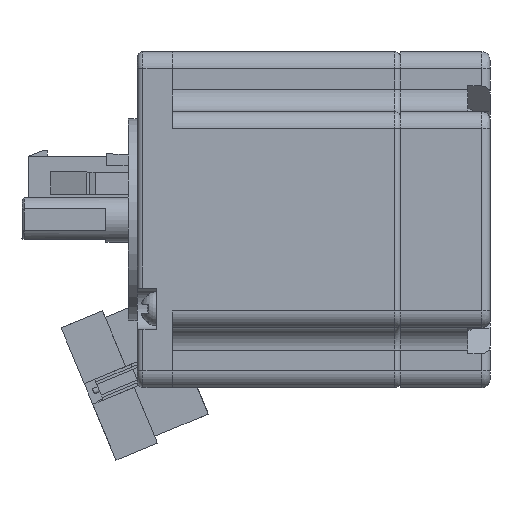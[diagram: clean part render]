
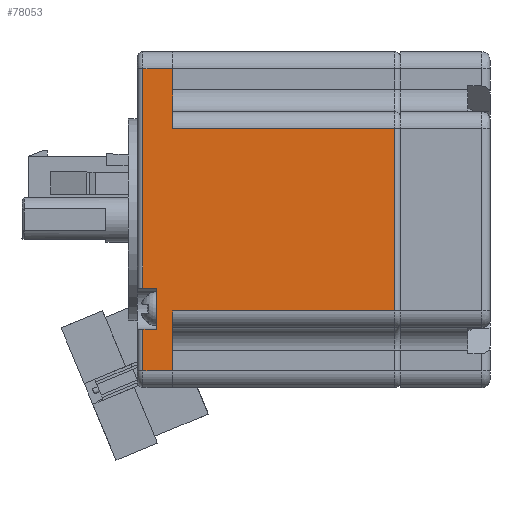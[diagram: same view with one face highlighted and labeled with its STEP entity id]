
A CAD part, front view. The second image highlights one B-rep face of the part: STEP entity #78053.
In plain terms, the highlighted planar face has unit normal (0, -1, 0).
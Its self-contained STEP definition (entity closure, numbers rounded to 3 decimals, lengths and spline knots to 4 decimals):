
#512=LINE('',#108121,#11326);
#514=LINE('',#108125,#11328);
#516=LINE('',#108129,#11330);
#517=LINE('',#108133,#11331);
#518=LINE('',#108135,#11332);
#521=LINE('',#108147,#11335);
#524=LINE('',#108157,#11338);
#566=LINE('',#108274,#11380);
#569=LINE('',#108282,#11383);
#575=LINE('',#108320,#11389);
#576=LINE('',#108323,#11390);
#577=LINE('',#108324,#11391);
#11326=VECTOR('',#87562,1.5433);
#11328=VECTOR('',#87566,0.0984);
#11330=VECTOR('',#87570,0.2913);
#11331=VECTOR('',#87575,0.0984);
#11332=VECTOR('',#87578,0.2913);
#11335=VECTOR('',#87587,0.4213);
#11338=VECTOR('',#87598,0.2087);
#11380=VECTOR('',#87720,0.2087);
#11383=VECTOR('',#87727,0.4213);
#11389=VECTOR('',#87769,1.563);
#11390=VECTOR('',#87772,1.563);
#11391=VECTOR('',#87773,1.2835);
#22233=PLANE('',#82347);
#26260=FACE_OUTER_BOUND('',#30327,.T.);
#30327=EDGE_LOOP('',(#55482,#55483,#55484,#55485,#55486,#55487,#55488,#55489,
#55490,#55491,#55492,#55493));
#35282=VERTEX_POINT('',#107950);
#35328=VERTEX_POINT('',#108115);
#35329=VERTEX_POINT('',#108119);
#35330=VERTEX_POINT('',#108123);
#35331=VERTEX_POINT('',#108127);
#35332=VERTEX_POINT('',#108131);
#35337=VERTEX_POINT('',#108144);
#35338=VERTEX_POINT('',#108146);
#35376=VERTEX_POINT('',#108273);
#35379=VERTEX_POINT('',#108281);
#35393=VERTEX_POINT('',#108318);
#35394=VERTEX_POINT('',#108322);
#43256=EDGE_CURVE('',#35328,#35329,#512,.T.);
#43258=EDGE_CURVE('',#35329,#35330,#514,.T.);
#43260=EDGE_CURVE('',#35330,#35331,#516,.T.);
#43262=EDGE_CURVE('',#35331,#35332,#517,.T.);
#43263=EDGE_CURVE('',#35332,#35282,#518,.T.);
#43268=EDGE_CURVE('',#35338,#35337,#521,.T.);
#43274=EDGE_CURVE('',#35282,#35338,#524,.T.);
#43332=EDGE_CURVE('',#35376,#35328,#566,.T.);
#43336=EDGE_CURVE('',#35379,#35376,#569,.T.);
#43353=EDGE_CURVE('',#35393,#35379,#575,.T.);
#43354=EDGE_CURVE('',#35394,#35337,#576,.T.);
#43355=EDGE_CURVE('',#35393,#35394,#577,.T.);
#55482=ORIENTED_EDGE('',*,*,#43263,.T.);
#55483=ORIENTED_EDGE('',*,*,#43274,.T.);
#55484=ORIENTED_EDGE('',*,*,#43268,.T.);
#55485=ORIENTED_EDGE('',*,*,#43354,.F.);
#55486=ORIENTED_EDGE('',*,*,#43355,.F.);
#55487=ORIENTED_EDGE('',*,*,#43353,.T.);
#55488=ORIENTED_EDGE('',*,*,#43336,.T.);
#55489=ORIENTED_EDGE('',*,*,#43332,.T.);
#55490=ORIENTED_EDGE('',*,*,#43256,.T.);
#55491=ORIENTED_EDGE('',*,*,#43258,.T.);
#55492=ORIENTED_EDGE('',*,*,#43260,.T.);
#55493=ORIENTED_EDGE('',*,*,#43262,.T.);
#78053=ADVANCED_FACE('',(#26260),#22233,.T.);
#82347=AXIS2_PLACEMENT_3D('',#108321,#87770,#87771);
#87562=DIRECTION('',(0.,0.,-1.));
#87566=DIRECTION('',(1.,0.,0.));
#87570=DIRECTION('',(0.,0.,-1.));
#87575=DIRECTION('',(-1.,0.,0.));
#87578=DIRECTION('',(0.,0.,-1.));
#87587=DIRECTION('',(0.,0.,1.));
#87598=DIRECTION('',(1.,0.,0.));
#87720=DIRECTION('',(-1.,0.,0.));
#87727=DIRECTION('',(0.,0.,1.));
#87769=DIRECTION('',(-1.,0.,0.));
#87770=DIRECTION('center_axis',(0.,-1.,0.));
#87771=DIRECTION('ref_axis',(1.,0.,0.));
#87772=DIRECTION('',(-1.,0.,0.));
#87773=DIRECTION('',(0.,0.,-1.));
#107950=CARTESIAN_POINT('',(6.2468,-2.3622,-2.2441));
#108115=CARTESIAN_POINT('',(6.2468,-2.3622,-0.1181));
#108119=CARTESIAN_POINT('',(6.2468,-2.3622,-1.6614));
#108121=CARTESIAN_POINT('',(6.2468,-2.3622,0.));
#108123=CARTESIAN_POINT('',(6.3452,-2.3622,-1.6614));
#108125=CARTESIAN_POINT('',(6.2074,-2.3622,-1.6614));
#108127=CARTESIAN_POINT('',(6.3452,-2.3622,-1.9528));
#108129=CARTESIAN_POINT('',(6.3452,-2.3622,0.));
#108131=CARTESIAN_POINT('',(6.2468,-2.3622,-1.9528));
#108133=CARTESIAN_POINT('',(6.2074,-2.3622,-1.9528));
#108135=CARTESIAN_POINT('',(6.2468,-2.3622,0.));
#108144=CARTESIAN_POINT('',(6.4554,-2.3622,-1.8228));
#108146=CARTESIAN_POINT('',(6.4554,-2.3622,-2.2441));
#108147=CARTESIAN_POINT('',(6.4554,-2.3622,0.));
#108157=CARTESIAN_POINT('',(6.2074,-2.3622,-2.2441));
#108273=CARTESIAN_POINT('',(6.4554,-2.3622,-0.1181));
#108274=CARTESIAN_POINT('',(6.2074,-2.3622,-0.1181));
#108281=CARTESIAN_POINT('',(6.4554,-2.3622,-0.5394));
#108282=CARTESIAN_POINT('',(6.4554,-2.3622,0.));
#108318=CARTESIAN_POINT('',(8.0184,-2.3622,-0.5394));
#108320=CARTESIAN_POINT('',(6.2074,-2.3622,-0.5394));
#108321=CARTESIAN_POINT('Origin',(6.2074,-2.3622,0.));
#108322=CARTESIAN_POINT('',(8.0184,-2.3622,-1.8228));
#108323=CARTESIAN_POINT('',(6.4554,-2.3622,-1.8228));
#108324=CARTESIAN_POINT('',(8.0184,-2.3622,-0.5394));
